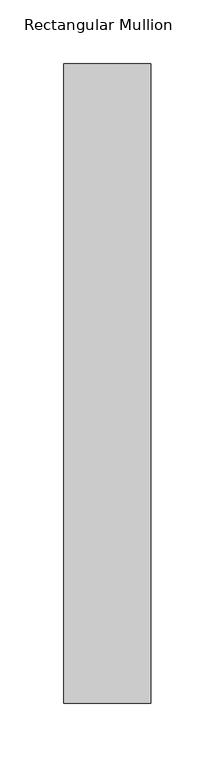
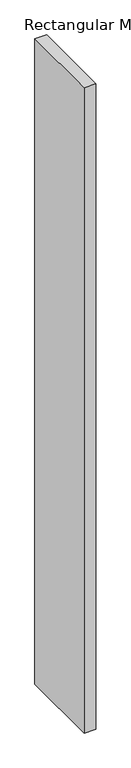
"""IFC4 building model written with IfcOpenShell, lengths in millimetres: member geometry, Rectangular Mullion : DucoSun Cubic Design louvre 500."""

import ifcopenshell
import ifcopenshell.guid

model = None  # the IFC model being written
_history = None  # IfcOwnerHistory: only IFC2X3 demands one
_inside = {}  # id of a spatial element -> (the spatial element, [elements in it])
_under = {}  # id of a project, library or spatial element -> (it, [spatial elements below it])
_declared = {}  # id of a project -> (the project, [libraries it declares])
_typed = {}  # id of a type object -> (the type object, [elements of that type])
_made_of = {}  # id of a material, layer set ... -> (it, [elements and type objects made of it])


def new_model(schema):
    """Start an empty IFC model of exactly this schema.

    Asked for "IFC4X3", IfcOpenShell would pick the latest addendum, in which some entities
    have other attributes; the version numbers below select the first issue.
    IFC2X3 requires an IfcOwnerHistory on every rooted entity: one is made here for all.
    """
    global model, _history
    if schema == "IFC4X3":
        model = ifcopenshell.file(schema_version=(4, 3, 0, 0))
    else:
        model = ifcopenshell.file(schema=schema)
    _inside.clear()
    _under.clear()
    _declared.clear()
    _typed.clear()
    _made_of.clear()
    _history = None
    if model.schema == "IFC2X3":
        org = make("IfcOrganization", Name="unknown")
        user = make(
            "IfcPersonAndOrganization",
            ThePerson=make("IfcPerson", FamilyName="unknown"),
            TheOrganization=org,
        )
        app = make(
            "IfcApplication",
            ApplicationDeveloper=org,
            Version="unknown",
            ApplicationFullName="unknown",
            ApplicationIdentifier="unknown",
        )
        _history = make(
            "IfcOwnerHistory",
            OwningUser=user,
            OwningApplication=app,
            ChangeAction="ADDED",
            CreationDate=0,
        )
    return model


def make(cls, **values):
    """One entity of the class cls with the attributes given. An attribute that is None is left unset."""
    return model.create_entity(
        cls, **{name: value for name, value in values.items() if value is not None}
    )


def rooted(cls, **values):
    """An entity with a GlobalId (a new one), such as an element, a storey or a relation."""
    return make(cls, GlobalId=ifcopenshell.guid.new(), OwnerHistory=_history, **values)


def si_unit(unit_type, name, prefix=None):
    """IfcSIUnit, for example si_unit("LENGTHUNIT", "METRE", prefix="MILLI")."""
    return make("IfcSIUnit", UnitType=unit_type, Prefix=prefix, Name=name)


def assignment(units):
    """IfcUnitAssignment: the units of a project."""
    return None if units is None else make("IfcUnitAssignment", Units=units)


def point(xyz):
    """IfcCartesianPoint."""
    return None if xyz is None else make("IfcCartesianPoint", Coordinates=xyz)


def direction(xyz):
    """IfcDirection."""
    return None if xyz is None else make("IfcDirection", DirectionRatios=xyz)


def frame(location, z_axis=None, x_axis=None):
    """IfcAxis2Placement3D, a coordinate frame: its origin and axes. An axis left out is left unset."""
    return make(
        "IfcAxis2Placement3D",
        Location=point(location),
        Axis=direction(z_axis),
        RefDirection=direction(x_axis),
    )


def origin():
    """The frame at (0, 0, 0) with its axes left unset."""
    return frame((0.0, 0.0, 0.0))


def place(relative_to, where):
    """IfcLocalPlacement: puts the frame where relative to a parent placement (None: the world)."""
    return make(
        "IfcLocalPlacement", PlacementRelTo=relative_to, RelativePlacement=where
    )


def context(
    kind, dimensions, precision=None, world=None, true_north=None, identifier=None
):
    """IfcGeometricRepresentationContext, for example the 3D "Model" context."""
    return make(
        "IfcGeometricRepresentationContext",
        ContextIdentifier=identifier,
        ContextType=kind,
        CoordinateSpaceDimension=dimensions,
        Precision=precision,
        WorldCoordinateSystem=world,
        TrueNorth=true_north,
    )


def project(units=None, contexts=None):
    """IfcProject with its units and contexts."""
    return rooted(
        "IfcProject",
        Name="project",
        RepresentationContexts=contexts,
        UnitsInContext=assignment(units),
    )


def spatial(cls, under=None, at=None, **own):
    """A site, building, storey or space (cls), placed at a placement, below another one or the project."""
    s = rooted(cls, ObjectPlacement=at, **own)
    if under is not None:
        _under.setdefault(under.id(), (under, []))[1].append(s)
    return s


def polyline(points):
    """IfcPolyline through the points."""
    return make("IfcPolyline", Points=[point(p) for p in points])


def outline(outer, holes=None, kind="AREA"):
    """IfcArbitraryClosedProfileDef: a profile drawn as a closed curve; with holes, ...WithVoids."""
    if holes is None:
        return make("IfcArbitraryClosedProfileDef", ProfileType=kind, OuterCurve=outer)
    return make(
        "IfcArbitraryProfileDefWithVoids",
        ProfileType=kind,
        OuterCurve=outer,
        InnerCurves=holes,
    )


def extrude(swept, where, along, depth):
    """IfcExtrudedAreaSolid: the profile swept, set in the frame where, extruded along a direction by depth."""
    return make(
        "IfcExtrudedAreaSolid",
        SweptArea=swept,
        Position=where,
        ExtrudedDirection=direction(along),
        Depth=depth,
    )


def shape(context_of_items, identifier, shape_type, items):
    """IfcShapeRepresentation: the items that make up one representation, for example the "Body"."""
    return make(
        "IfcShapeRepresentation",
        ContextOfItems=context_of_items,
        RepresentationIdentifier=identifier,
        RepresentationType=shape_type,
        Items=items,
    )


def source(mapping_origin, context_of_items, identifier, shape_type, items):
    """IfcRepresentationMap: a shape defined once, which mapped items show again and again."""
    return make(
        "IfcRepresentationMap",
        MappingOrigin=mapping_origin,
        MappedRepresentation=shape(context_of_items, identifier, shape_type, items),
    )


def transform(
    local_origin,
    x_axis=None,
    y_axis=None,
    z_axis=None,
    scale=None,
    scale2=None,
    scale3=None,
    uniform=True,
):
    """IfcCartesianTransformationOperator3D, or its non-uniform kind. x_axis, y_axis, z_axis: its Axis1, 2, 3."""
    if uniform:
        return make(
            "IfcCartesianTransformationOperator3D",
            Axis1=direction(x_axis),
            Axis2=direction(y_axis),
            LocalOrigin=point(local_origin),
            Scale=scale,
            Axis3=direction(z_axis),
        )
    return make(
        "IfcCartesianTransformationOperator3DnonUniform",
        Axis1=direction(x_axis),
        Axis2=direction(y_axis),
        LocalOrigin=point(local_origin),
        Scale=scale,
        Axis3=direction(z_axis),
        Scale2=scale2,
        Scale3=scale3,
    )


def mapped(mapping_source, mapping_target):
    """IfcMappedItem: shows the shape of a source again, moved by a transform."""
    return make(
        "IfcMappedItem", MappingSource=mapping_source, MappingTarget=mapping_target
    )


def made_of(thing, what):
    """Note that an element or type object is made of a material, layer set ...; save() writes the relation."""
    if what is not None:
        _made_of.setdefault(what.id(), (what, []))[1].append(thing)
    return thing


def element(
    cls,
    number,
    at=None,
    inside=None,
    cuts=None,
    type_object=None,
    material=None,
    context=None,
    identifier="Body",
    shape_type=None,
    held_by="IfcProductDefinitionShape",
    body=None,
    shapes=None,
    **own,
):
    """One element of the class cls, such as IfcWall. Its Tag is "e" and its number.

    at: its placement. inside: the storey or other place that contains it. cuts: it is an
    opening in that element (IfcRelVoidsElement). A single representation is given by context,
    identifier, shape_type and body (its items); several are given by shapes. held_by: the class
    of the entity that holds the representations. save() writes the other relations.
    """
    e = rooted(cls, Tag="e%d" % number, ObjectPlacement=at, **own)
    if body is not None:
        shapes = [shape(context, identifier, shape_type, body)]
    if shapes is not None:
        e.Representation = make(held_by, Representations=shapes)
    if inside is not None:
        _inside.setdefault(inside.id(), (inside, []))[1].append(e)
    if cuts is not None:
        rooted(
            "IfcRelVoidsElement", RelatingBuildingElement=cuts, RelatedOpeningElement=e
        )
    if type_object is not None:
        _typed.setdefault(type_object.id(), (type_object, []))[1].append(e)
    return made_of(e, material)


def aggregate(whole, parts):
    """IfcRelAggregates: a whole, such as a stair, and the parts it consists of."""
    return rooted("IfcRelAggregates", RelatingObject=whole, RelatedObjects=parts)


def save(model, path):
    """Write the relations noted so far, then the file.

    IfcRelAggregates (storeys below a building ...), IfcRelContainedInSpatialStructure (elements
    in a storey), IfcRelDefinesByType, IfcRelAssociatesMaterial and IfcRelDeclares: one each for
    every whole, place, type object, material and project.
    """
    for whole, parts in _under.values():
        aggregate(whole, parts)
    for where, things in _inside.values():
        rooted(
            "IfcRelContainedInSpatialStructure",
            RelatedElements=things,
            RelatingStructure=where,
        )
    for kind, things in _typed.values():
        rooted("IfcRelDefinesByType", RelatedObjects=things, RelatingType=kind)
    for what, things in _made_of.values():
        rooted("IfcRelAssociatesMaterial", RelatedObjects=things, RelatingMaterial=what)
    for by, libraries in _declared.values():
        rooted("IfcRelDeclares", RelatingContext=by, RelatedDefinitions=libraries)
    model.write(path)


def rectangular_mullion_8bb3a10a(model_context):
    return source(origin(), model_context, "Body", "SweptSolid", [
        extrude(outline(polyline([(0.0, -500.0), (-68.0, -500.0), (-68.0, 0.0), (0.0, 0.0), (0.0, -500.0)])), frame((0.0, 0.0, -4000.0), z_axis=(0.0, 0.0, 1.0), x_axis=(1.0, 0.0, 0.0)), (0.0, 0.0, 1.0), 4000.0),
    ])


if __name__ == "__main__":
    model = new_model("IFC4")
    model_context = context("Model", 3, world=origin())
    ifc_project = project(units=[si_unit("LENGTHUNIT", "METRE", prefix="MILLI")], contexts=[model_context])
    site = spatial("IfcSite", under=ifc_project)
    building = spatial("IfcBuilding", under=site)
    placement = place(None, origin())
    rectangular_mullion_shape = rectangular_mullion_8bb3a10a(model_context)
    element("IfcMember", 1, ObjectType="Rectangular Mullion : DucoSun Cubic Design louvre 500", at=placement, inside=building, context=model_context, shape_type="MappedRepresentation", body=[
        mapped(rectangular_mullion_shape, transform((0.0, 0.0, 0.0), x_axis=(1.0, 0.0, 0.0), y_axis=(0.0, 1.0, 0.0), z_axis=(0.0, 0.0, 1.0))),
    ])
    save(model, "model.ifc")
